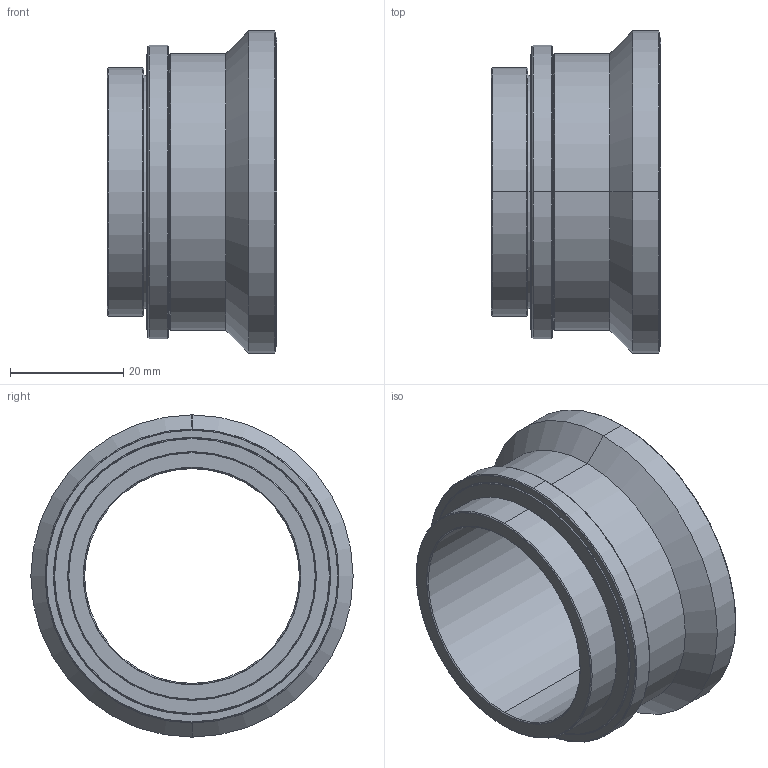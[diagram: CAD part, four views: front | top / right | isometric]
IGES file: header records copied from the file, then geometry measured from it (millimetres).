
Start section: SolidWorks IGES file using analytic representation for surfaces
Bounding box: 30 x 57 x 57 mm (x, y, z)
Surface area: 12643 mm2 (no closed solid volume)
Topology: 0 solids, 0 shells, 57 faces, 1344 edges, 1344 vertices
Faces by surface type: revolution 48, bspline 9
